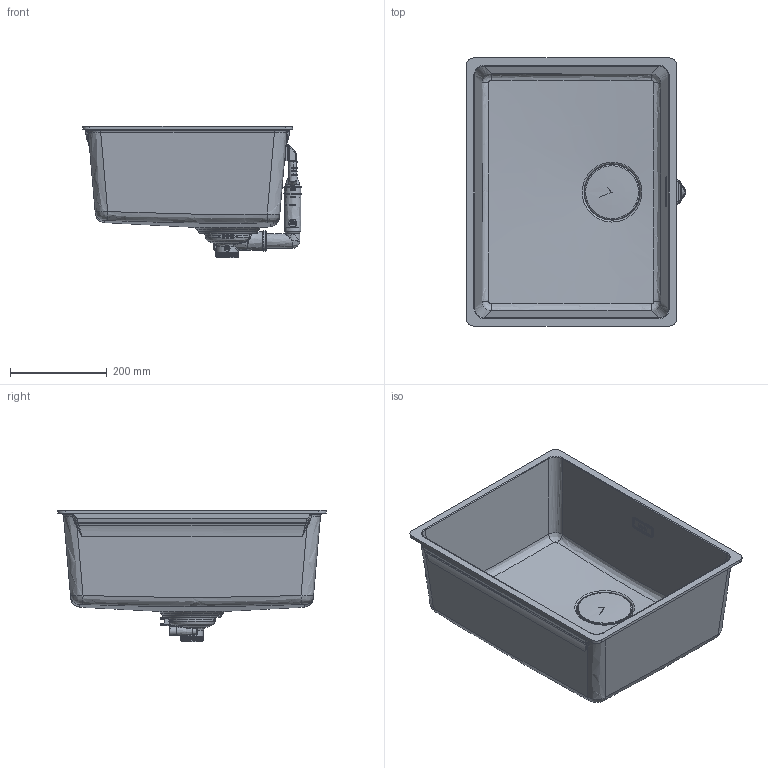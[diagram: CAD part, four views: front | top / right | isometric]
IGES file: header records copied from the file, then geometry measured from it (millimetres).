
Global section: file name: MRG 110-52; native system: Autodesk Inventor 2021; preprocessor: unknown; date: 20210929.160217; units: millimetre
Bounding box: 451.36 x 553 x 271.19 mm (x, y, z)
Volume: 4058759.1 mm3; surface area: 1287672.9 mm2
Topology: 21 solids, 22 shells, 5068 faces, 13613 edges, 8773 vertices
Faces by surface type: bspline 5068
